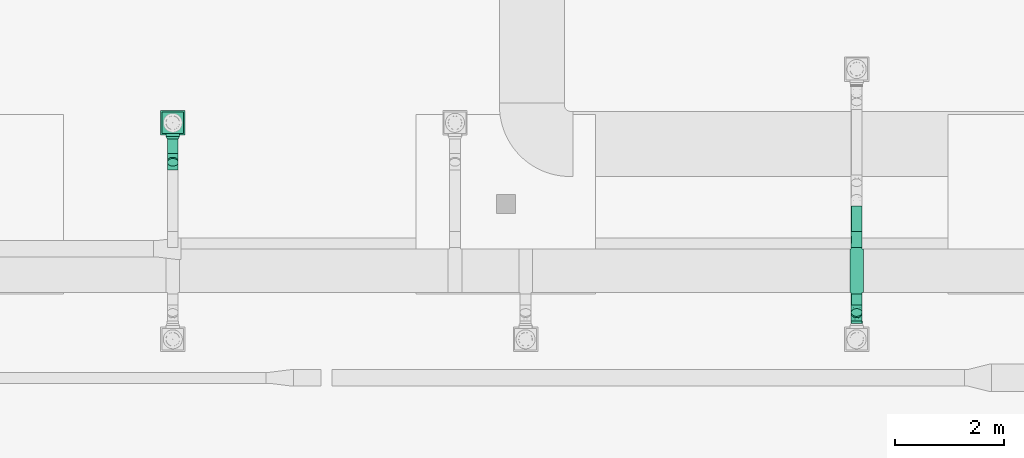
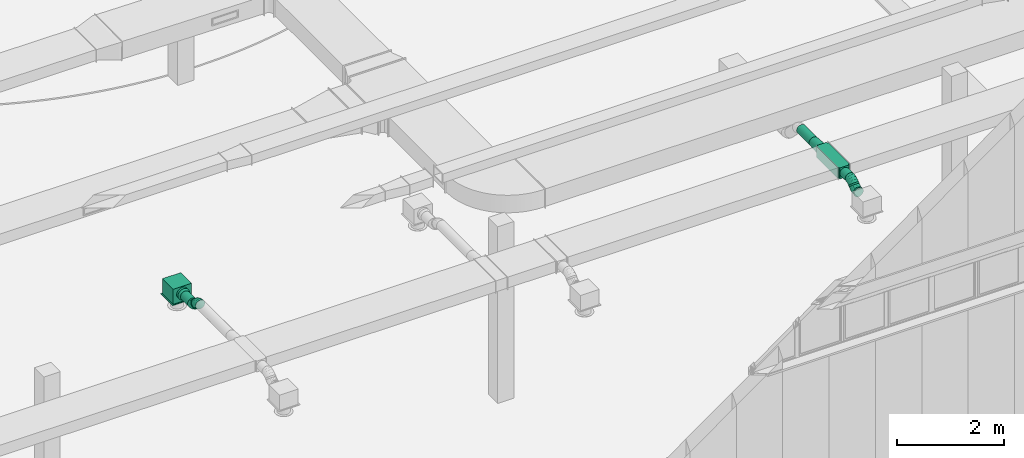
# One storey, part 263 of 302: 7 flow fittings, 6 flow segments, 1 flow terminal.
"""IFC2X3 building model written with IfcOpenShell, lengths in metres."""

from ifc_helpers import new_model, entity, si_unit, converted_unit, derived_unit, direction, frame, frame_2d, origin, origin_2d_with_axis, place, context, subcontext, project, spatial, polyline, rectangle, circle, outline, extrude, faceted_brep, source, transform, mapped, material, material_list, type_object, type_shapes, element, save


model = new_model("IFC2X3")

# Units and contexts
model_context = context("Model", 3, precision=1e-05, world=origin(), true_north=direction((6.12303176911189e-17, 1.0)))
body_context = subcontext(model_context, "Body", "Model", "MODEL_VIEW")
ifc_project = project(units=[si_unit("LENGTHUNIT", "METRE"), si_unit("AREAUNIT", "SQUARE_METRE"), si_unit("VOLUMEUNIT", "CUBIC_METRE"), converted_unit("PLANEANGLEUNIT", "DEGREE", entity("IfcRatioMeasure", 0.0174532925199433), si_unit("PLANEANGLEUNIT", "RADIAN"), dimensions=[0, 0, 0, 0, 0, 0, 0]), si_unit("MASSUNIT", "GRAM", prefix="KILO"), derived_unit("MASSDENSITYUNIT", [(si_unit("MASSUNIT", "GRAM", prefix="KILO"), 1), (si_unit("LENGTHUNIT", "METRE"), -3)]), derived_unit("MOMENTOFINERTIAUNIT", [(si_unit("LENGTHUNIT", "METRE"), 4)]), si_unit("TIMEUNIT", "SECOND"), si_unit("FREQUENCYUNIT", "HERTZ"), si_unit("THERMODYNAMICTEMPERATUREUNIT", "DEGREE_CELSIUS"), derived_unit("THERMALTRANSMITTANCEUNIT", [(si_unit("MASSUNIT", "GRAM", prefix="KILO"), 1), (si_unit("THERMODYNAMICTEMPERATUREUNIT", "KELVIN"), -1), (si_unit("TIMEUNIT", "SECOND"), -3)]), derived_unit("VOLUMETRICFLOWRATEUNIT", [(si_unit("LENGTHUNIT", "METRE"), 3), (si_unit("TIMEUNIT", "SECOND"), -1)]), si_unit("ELECTRICCURRENTUNIT", "AMPERE"), si_unit("ELECTRICVOLTAGEUNIT", "VOLT"), si_unit("POWERUNIT", "WATT"), si_unit("FORCEUNIT", "NEWTON", prefix="KILO"), si_unit("ILLUMINANCEUNIT", "LUX"), si_unit("LUMINOUSFLUXUNIT", "LUMEN"), si_unit("LUMINOUSINTENSITYUNIT", "CANDELA"), derived_unit("USERDEFINED", [(si_unit("MASSUNIT", "GRAM", prefix="KILO"), -1), (si_unit("LENGTHUNIT", "METRE"), -2), (si_unit("TIMEUNIT", "SECOND"), 3), (si_unit("LUMINOUSFLUXUNIT", "LUMEN"), 1)]), derived_unit("LINEARVELOCITYUNIT", [(si_unit("LENGTHUNIT", "METRE"), 1), (si_unit("TIMEUNIT", "SECOND"), -1)]), si_unit("PRESSUREUNIT", "PASCAL"), derived_unit("USERDEFINED", [(si_unit("LENGTHUNIT", "METRE"), -2), (si_unit("MASSUNIT", "GRAM", prefix="KILO"), 1), (si_unit("TIMEUNIT", "SECOND"), -2)]), derived_unit("LINEARFORCEUNIT", [(si_unit("MASSUNIT", "GRAM", prefix="KILO"), 1), (si_unit("LENGTHUNIT", "METRE"), 1), (si_unit("TIMEUNIT", "SECOND"), -2), (si_unit("LENGTHUNIT", "METRE"), -1)]), derived_unit("PLANARFORCEUNIT", [(si_unit("MASSUNIT", "GRAM", prefix="KILO"), 1), (si_unit("LENGTHUNIT", "METRE"), 1), (si_unit("TIMEUNIT", "SECOND"), -2), (si_unit("LENGTHUNIT", "METRE"), -2)])], contexts=[model_context])

# Site, building, storey
site_placement = place(None, origin())
site = spatial("IfcSite", under=ifc_project, at=site_placement, Name="Default", CompositionType="ELEMENT")
building_placement = place(site_placement, origin())
building = spatial("IfcBuilding", under=site, at=building_placement, CompositionType="ELEMENT")
storey_placement = place(building_placement, frame((0.0, 0.0, -1.3)))
storey = spatial("IfcBuildingStorey", under=building, at=storey_placement, Name="00_EG", CompositionType="ELEMENT", Elevation=-1.3)

# Flow segments
duct_segment_type = type_object("IfcDuctSegmentType", Name="Rund:STR_Segment_RND_GS_EA", PredefinedType="NOTDEFINED")
flow_segment_1_placement = place(storey_placement, origin())
element("IfcFlowSegment", 1, at=flow_segment_1_placement, inside=storey, type_object=duct_segment_type, Name="Rund:STR_Segment_RND_GS_EA", ObjectType="Rund:STR_Segment_RND_GS_EA", context=body_context, shape_type="SweptSolid", body=[
    extrude(circle(Radius=0.1, at=origin_2d_with_axis()), frame((-240.478749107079, 22.9468155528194, 5.125), z_axis=(0.0, 1.0, 0.0), x_axis=(1.0, 0.0, 0.0)), (0.0, 0.0, 1.0), 0.467157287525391),
])
flow_segment_2_placement = place(storey_placement, origin())
element("IfcFlowSegment", 2, at=flow_segment_2_placement, inside=storey, type_object=duct_segment_type, Name="Rund:STR_Segment_RND_GS_EA", ObjectType="Rund:STR_Segment_RND_GS_EA", context=body_context, shape_type="SweptSolid", body=[
    extrude(circle(Radius=0.1, at=origin_2d_with_axis()), frame((-240.478749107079, 21.4325516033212, 5.04357873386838), z_axis=(0.0, 0.707106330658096, 0.707107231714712), x_axis=(1.0, 0.0, 0.0)), (0.0, 0.0, 1.0), 0.0323041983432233),
])
flow_segment_3_placement = place(storey_placement, origin())
element("IfcFlowSegment", 3, at=flow_segment_3_placement, inside=storey, type_object=duct_segment_type, Name="Rund:STR_Segment_RND_GS_EA", ObjectType="Rund:STR_Segment_RND_GS_EA", context=body_context, shape_type="SweptSolid", body=[
    extrude(circle(Radius=0.1, at=origin_2d_with_axis()), frame((-240.478749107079, 21.2618155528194, 4.985), z_axis=(0.0, 1.0, 0.0), x_axis=(1.0, 0.0, 0.0)), (0.0, 0.0, 1.0), 0.0293146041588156),
])
flow_segment_4_placement = place(storey_placement, origin())
element("IfcFlowSegment", 4, at=flow_segment_4_placement, inside=storey, type_object=duct_segment_type, Name="Rund:STR_Segment_RND_GS_EA", ObjectType="Rund:STR_Segment_RND_GS_EA", context=body_context, shape_type="SweptSolid", body=[
    extrude(circle(Radius=0.1, at=origin_2d_with_axis()), frame((-240.478749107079, 21.5968155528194, 5.12500000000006), z_axis=(0.0, 1.0, 0.0), x_axis=(1.0, 0.0, 0.0)), (0.0, 0.0, 1.0), 0.200000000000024),
])
flow_segment_5_placement = place(storey_placement, origin())
element("IfcFlowSegment", 5, at=flow_segment_5_placement, inside=storey, type_object=duct_segment_type, Name="Rund:STR_Segment_RND_GS_EA", ObjectType="Rund:STR_Segment_RND_GS_EA", context=body_context, shape_type="SweptSolid", body=[
    extrude(circle(Radius=0.1, at=origin_2d_with_axis()), frame((-253.062285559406, 24.3826301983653, 4.985), z_axis=(0.0, 1.0, 0.0), x_axis=(-1.0, 0.0, 0.0)), (0.0, 0.0, 1.0), 0.262914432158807),
])
flow_segment_6_placement = place(storey_placement, origin())
element("IfcFlowSegment", 6, at=flow_segment_6_placement, inside=storey, type_object=duct_segment_type, Name="Rund:STR_Segment_RND_GS_EA", ObjectType="Rund:STR_Segment_RND_GS_EA", context=body_context, shape_type="SweptSolid", body=[
    extrude(circle(Radius=0.1, at=frame_2d((3.46517481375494e-14, -4.59428346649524e-15), x_axis=(1.0, 0.0))), frame((-253.062285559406, 24.218366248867, 5.06642126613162), z_axis=(0.0, 0.707106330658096, -0.707107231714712), x_axis=(-1.0, 0.0, 0.0)), (0.0, 0.0, 1.0), 0.0323041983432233),
])

# Flow fitting
ifc_material = material(Name="<Unnamed>")
duct_fitting_type_1 = type_object("IfcDuctFittingType", Name="STR_RCT_Cross:STR_Cross_RCT_GS_RA", PredefinedType="NOTDEFINED", material=ifc_material)
shared_shape_1 = source(origin(), body_context, "Body", "SweptSolid", [
    extrude(outline(polyline([(-0.424999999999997, 0.0999999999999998), (-0.424999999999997, -0.1), (-0.400000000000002, -0.1), (-0.400000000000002, -0.124999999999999), (0.399999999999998, -0.124999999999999), (0.399999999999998, -0.100000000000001), (0.425000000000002, -0.100000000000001), (0.425000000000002, 0.0999999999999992), (0.399999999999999, 0.0999999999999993), (0.399999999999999, 0.125000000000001), (-0.400000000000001, 0.125000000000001), (-0.400000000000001, 0.0999999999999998), (-0.424999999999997, 0.0999999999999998)])), frame((0.0, 0.0, -0.125000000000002), z_axis=(0.0, 0.0, -1.0), x_axis=(0.0, 1.0, 0.0)), (0.0, 0.0, -1.0), 0.25),
])
type_shapes(duct_fitting_type_1, [shared_shape_1])
flow_fitting_1_placement = place(storey_placement, frame((-240.478749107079, 22.2218155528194, 5.125)))
element("IfcFlowFitting", 7, at=flow_fitting_1_placement, inside=storey, type_object=duct_fitting_type_1, material=ifc_material, Name="STR_RCT_Cross:STR_Cross_RCT_GS_RA", ObjectType="STR_RCT_Cross:STR_Cross_RCT_GS_RA", context=body_context, shape_type="MappedRepresentation", body=[
    mapped(shared_shape_1, transform((0.0, 0.0, 0.0), scale=1.0)),
])

# Flow terminal
ifc_material_list = material_list([ifc_material, ifc_material, ifc_material])
air_terminal_type = type_object("IfcAirTerminalType", Name="Drallauslass Zuluft seitlich:600 quadratisch", PredefinedType="NOTDEFINED", material=ifc_material_list)
shared_shape_2 = source(origin(), body_context, "Body", "SweptSolid", [
    extrude(rectangle(XDim=0.449999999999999, YDim=0.450000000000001, at=origin_2d_with_axis()), frame((0.0, 0.0, 2.692), z_axis=(0.0, 0.0, 1.0), x_axis=(-1.0, 0.0, 0.0)), (0.0, 0.0, 1.0), 0.00800000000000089),
    extrude(circle(Radius=0.125, at=frame_2d((1.22275294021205e-18, 0.0), x_axis=(1.0, 0.0))), frame((-0.25, 0.0, 2.89500000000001), z_axis=(1.0, 0.0, 0.0), x_axis=(0.0, 1.0, 0.0)), (0.0, 0.0, 1.0), 0.0499999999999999),
    extrude(rectangle(XDim=0.399999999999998, YDim=0.4, at=origin_2d_with_axis()), frame((0.0, 0.0, 2.7), z_axis=(0.0, 0.0, 1.0), x_axis=(-1.0, 0.0, 0.0)), (0.0, 0.0, 1.0), 0.345000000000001),
])
type_shapes(air_terminal_type, [shared_shape_2])
flow_terminal_placement = place(storey_placement, frame((-253.062285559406, 24.9455446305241, 2.08999999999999), z_axis=(0.0, 0.0, 1.0), x_axis=(0.0, 1.0, 0.0)))
element("IfcFlowTerminal", 8, at=flow_terminal_placement, inside=storey, type_object=air_terminal_type, material=ifc_material, Name="Drallauslass Zuluft seitlich:600 quadratisch", ObjectType="Drallauslass Zuluft seitlich:600 quadratisch", context=body_context, shape_type="MappedRepresentation", body=[
    mapped(shared_shape_2, transform((0.0, 0.0, 0.0), scale=1.0)),
])

# Flow fittings
duct_fitting_type_2 = type_object("IfcDuctFittingType", Name="STR_OVL_Transition:STR_Transition_OVL_GS_EA", PredefinedType="NOTDEFINED", material=ifc_material)
shared_shape_3 = source(origin(), body_context, "Body", "Brep", [
    faceted_brep([(0.300000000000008, 0.0999999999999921, 0.00158749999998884), (0.300000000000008, 0.0966466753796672, 0.0270585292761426), (0.300000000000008, 0.0868152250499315, 0.050793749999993), (0.300000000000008, 0.0711756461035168, 0.0711756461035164), (0.300000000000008, 0.0507937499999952, 0.0868152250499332), (0.300000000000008, 0.0270585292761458, 0.0966466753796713), (0.300000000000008, 0.00158749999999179, 0.0999999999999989), (0.300000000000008, -0.00158750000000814, 0.0999999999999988), (0.300000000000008, -0.0270585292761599, 0.0966466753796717), (0.300000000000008, -0.0507937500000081, 0.0868152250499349), (0.300000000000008, -0.0711756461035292, 0.07117564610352), (0.300000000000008, -0.0868152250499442, 0.0507937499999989), (0.300000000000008, -0.0966466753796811, 0.0270585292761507), (0.300000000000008, -0.100000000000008, 0.00158749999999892), (0.300000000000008, -0.100000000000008, -0.00158750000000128), (0.300000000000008, -0.0966466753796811, -0.0270585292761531), (0.300000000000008, -0.0868152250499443, -0.0507937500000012), (0.300000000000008, -0.0711756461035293, -0.0711756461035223), (0.300000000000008, -0.0507937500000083, -0.0868152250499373), (0.300000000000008, -0.0270585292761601, -0.0966466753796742), (0.300000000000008, -0.00158750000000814, -0.100000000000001), (0.300000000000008, 0.0015874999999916, -0.100000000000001), (0.300000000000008, 0.0270585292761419, -0.0966466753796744), (0.300000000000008, 0.0507937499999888, -0.0868152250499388), (0.300000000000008, 0.0711756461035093, -0.0711756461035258), (0.300000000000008, 0.0868152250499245, -0.0507937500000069), (0.300000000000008, 0.0966466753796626, -0.0270585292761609), (0.300000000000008, 0.0999999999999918, -0.00158750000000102), (0.0, 0.00158749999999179, -0.125000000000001), (0.0, -0.00158750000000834, -0.125000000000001), (0.0, -0.0270585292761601, -0.121646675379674), (0.0, -0.0507937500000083, -0.111815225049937), (0.0, -0.0711756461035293, -0.0961756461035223), (0.0, -0.0868152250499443, -0.0757937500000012), (0.0, -0.0966466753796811, -0.0520585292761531), (0.0, -0.100000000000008, -0.026587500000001), (0.0, -0.100000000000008, 0.0265874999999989), (0.0, -0.0966466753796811, 0.0520585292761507), (0.0, -0.0868152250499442, 0.0757937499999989), (0.0, -0.0711756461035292, 0.0961756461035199), (0.0, -0.0507937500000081, 0.111815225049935), (0.0, -0.0270585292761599, 0.121646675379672), (0.0, -0.00158750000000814, 0.124999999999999), (0.0, 0.00158749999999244, 0.124999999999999), (0.0, 0.0270585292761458, 0.121646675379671), (0.0, 0.0507937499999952, 0.111815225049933), (0.0, 0.0711756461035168, 0.0961756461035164), (0.0, 0.0868152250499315, 0.0757937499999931), (0.0, 0.0966466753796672, 0.0520585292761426), (0.0, 0.0999999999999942, 0.026587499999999), (0.0, 0.0999999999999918, -0.0265875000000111), (0.0, 0.0966466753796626, -0.052058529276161), (0.0, 0.0868152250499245, -0.0757937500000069), (0.0, 0.0711756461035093, -0.0961756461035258), (0.0, 0.0507937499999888, -0.111815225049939), (0.0, 0.0270585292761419, -0.121646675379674), (0.154247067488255, -0.0203412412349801, 0.110342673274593), (0.145752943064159, -0.0981965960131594, 0.03319516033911), (0.107489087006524, -0.00158750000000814, 0.116042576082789), (0.149999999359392, -0.0614972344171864, 0.0921633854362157), (0.15000000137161, -0.0392483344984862, 0.105008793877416), (0.150000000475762, -0.0796633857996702, 0.0739972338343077), (0.192510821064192, -0.100000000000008, 0.0105449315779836), (0.149999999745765, -0.0925087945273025, 0.0517483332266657), (0.107489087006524, -0.100000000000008, -0.0176300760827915), (0.154247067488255, -0.0981965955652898, -0.0324873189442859), (0.145752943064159, -0.0203412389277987, -0.111050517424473), (0.149999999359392, -0.0796633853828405, -0.0739972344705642), (0.15000000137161, -0.0925087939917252, -0.0517483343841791), (0.150000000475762, -0.0614972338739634, -0.0921633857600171), (0.192511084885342, -0.00158750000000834, -0.10895740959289), (0.149999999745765, -0.0392483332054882, -0.105008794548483), (0.107489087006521, 0.0015874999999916, -0.116042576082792), (0.154247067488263, 0.0203412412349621, -0.110342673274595), (0.145752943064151, 0.0981965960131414, -0.0331951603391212), (0.149999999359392, 0.0614972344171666, -0.0921633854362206), (0.15000000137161, 0.0392483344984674, -0.105008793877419), (0.150000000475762, 0.0796633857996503, -0.0739972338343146), (0.192510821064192, 0.0999999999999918, -0.0105449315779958), (0.149999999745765, 0.0925087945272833, -0.0517483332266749), (0.107489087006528, 0.0999999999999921, 0.0176300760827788), (0.154247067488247, 0.0981965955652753, 0.0324873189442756), (0.145752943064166, 0.0203412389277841, 0.11105051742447), (0.149999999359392, 0.079663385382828, 0.0739972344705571), (0.15000000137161, 0.0925087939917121, 0.0517483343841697), (0.150000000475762, 0.0614972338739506, 0.0921633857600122), (0.192510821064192, 0.00158749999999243, 0.108957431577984), (0.149999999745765, 0.0392483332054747, 0.105008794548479)], [[[0, 1, 2, 3, 4, 5, 6, 7, 8, 9, 10, 11, 12, 13, 14, 15, 16, 17, 18, 19, 20, 21, 22, 23, 24, 25, 26, 27]], [[28, 29, 30, 31, 32, 33, 34, 35, 36, 37, 38, 39, 40, 41, 42, 43, 44, 45, 46, 47, 48, 49, 50, 51, 52, 53, 54, 55]], [[56, 42, 41]], [[36, 57, 37]], [[56, 7, 58, 42]], [[40, 39, 59]], [[41, 60, 56]], [[59, 60, 40]], [[61, 59, 39]], [[41, 40, 60]], [[8, 56, 60]], [[10, 9, 59]], [[9, 60, 59]], [[57, 36, 62, 13]], [[38, 37, 63]], [[63, 61, 38]], [[12, 57, 13]], [[12, 63, 57]], [[9, 8, 60]], [[10, 61, 11]], [[12, 11, 63]], [[63, 11, 61]], [[37, 57, 63]], [[61, 10, 59]], [[61, 39, 38]], [[7, 56, 8]], [[35, 64, 14, 13, 62, 36]], [[65, 35, 34]], [[29, 66, 30]], [[65, 14, 64, 35]], [[33, 32, 67]], [[34, 68, 65]], [[67, 68, 33]], [[69, 67, 32]], [[34, 33, 68]], [[15, 65, 68]], [[17, 16, 67]], [[16, 68, 67]], [[66, 29, 70, 20]], [[31, 30, 71]], [[71, 69, 31]], [[19, 66, 20]], [[19, 71, 66]], [[16, 15, 68]], [[17, 69, 18]], [[19, 18, 71]], [[71, 18, 69]], [[30, 66, 71]], [[69, 17, 67]], [[69, 32, 31]], [[14, 65, 15]], [[28, 72, 21, 20, 70, 29]], [[73, 28, 55]], [[50, 74, 51]], [[73, 21, 72, 28]], [[54, 53, 75]], [[55, 76, 73]], [[75, 76, 54]], [[77, 75, 53]], [[55, 54, 76]], [[22, 73, 76]], [[24, 23, 75]], [[23, 76, 75]], [[74, 50, 78, 27]], [[52, 51, 79]], [[79, 77, 52]], [[26, 74, 27]], [[26, 79, 74]], [[23, 22, 76]], [[24, 77, 25]], [[26, 25, 79]], [[79, 25, 77]], [[51, 74, 79]], [[77, 24, 75]], [[77, 53, 52]], [[21, 73, 22]], [[49, 80, 0, 27, 78, 50]], [[81, 49, 48]], [[43, 82, 44]], [[81, 0, 80, 49]], [[47, 46, 83]], [[48, 84, 81]], [[83, 84, 47]], [[85, 83, 46]], [[48, 47, 84]], [[1, 81, 84]], [[3, 2, 83]], [[2, 84, 83]], [[82, 43, 86, 6]], [[45, 44, 87]], [[87, 85, 45]], [[5, 82, 6]], [[5, 87, 82]], [[2, 1, 84]], [[3, 85, 4]], [[5, 4, 87]], [[87, 4, 85]], [[44, 82, 87]], [[85, 3, 83]], [[85, 46, 45]], [[0, 81, 1]], [[42, 58, 7, 6, 86, 43]]]),
])
type_shapes(duct_fitting_type_2, [shared_shape_3])
flow_fitting_2_placement = place(storey_placement, frame((-240.478749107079, 22.6468155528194, 5.125), z_axis=(0.0, 0.0, 1.0), x_axis=(0.0, 1.0, 0.0)))
element("IfcFlowFitting", 9, at=flow_fitting_2_placement, inside=storey, type_object=duct_fitting_type_2, material=ifc_material, Name="STR_OVL_Transition:STR_Transition_OVL_GS_EA", ObjectType="STR_OVL_Transition:STR_Transition_OVL_GS_EA", context=body_context, shape_type="MappedRepresentation", body=[
    mapped(shared_shape_3, transform((0.0, 0.0, 0.0), scale=1.0)),
])
duct_fitting_type_3 = type_object("IfcDuctFittingType", Name="STR_RND_Transition:STR_Transition_RND_GS_EA", PredefinedType="NOTDEFINED", material=ifc_material)
shared_shape_4 = source(origin(), body_context, "Body", "Brep", [
    faceted_brep([(0.0500000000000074, -0.0587785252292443, -0.0809016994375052), (0.0500000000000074, -0.0309016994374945, -0.0951056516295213), (0.0500000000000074, 0.0, -0.10000000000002), (0.0500000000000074, 0.0309016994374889, -0.0951056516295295), (0.0500000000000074, 0.058778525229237, -0.0809016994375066), (0.0500000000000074, 0.0809016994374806, -0.0587785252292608), (0.0500000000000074, 0.0951056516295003, -0.0309016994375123), (0.0500000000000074, 0.0999999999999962, 0.0), (0.0500000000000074, 0.0951056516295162, 0.0309016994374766), (0.0500000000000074, 0.0809016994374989, 0.0587785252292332), (0.0500000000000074, 0.0587785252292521, 0.0809016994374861), (0.0500000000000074, 0.0309016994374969, 0.0951056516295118), (0.0500000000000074, 0.0, 0.0999999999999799), (0.0500000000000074, -0.0309016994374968, 0.0951056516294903), (0.0500000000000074, -0.058778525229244, 0.0809016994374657), (0.0500000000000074, -0.0809016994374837, 0.0587785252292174), (0.0500000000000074, -0.0951056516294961, 0.0309016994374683), (0.0500000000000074, -0.100000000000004, 0.0), (0.0500000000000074, -0.0951056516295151, -0.030901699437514), (0.0500000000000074, -0.0809016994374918, -0.0587785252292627), (0.0, -0.124999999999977, 0.0), (0.0, -0.118882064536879, 0.038627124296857), (0.0, -0.101127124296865, 0.073473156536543), (0.0, -0.0734731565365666, 0.101127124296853), (0.0, -0.0386271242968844, 0.118882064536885), (0.0, 0.0, 0.125000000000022), (0.0, 0.0386271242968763, 0.11888206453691), (0.0, 0.0734731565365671, 0.101127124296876), (0.0, 0.101127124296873, 0.0734731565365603), (0.0, 0.118882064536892, 0.038627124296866), (0.0, 0.124999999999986, 0.0), (0.0, 0.118882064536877, -0.0386271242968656), (0.0, 0.101127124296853, -0.0734731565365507), (0.0, 0.0734731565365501, -0.101127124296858), (0.0, 0.0386271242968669, -0.118882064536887), (0.0, 0.0, -0.124999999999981), (0.0, -0.0386271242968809, -0.118882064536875), (0.0, -0.0734731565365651, -0.101127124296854), (0.0, -0.101127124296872, -0.0734731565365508), (0.0, -0.118882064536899, -0.0386271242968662)], [[[0, 1, 2, 3, 4, 5, 6, 7, 8, 9, 10, 11, 12, 13, 14, 15, 16, 17, 18, 19]], [[20, 21, 22, 23, 24, 25, 26, 27, 28, 29, 30, 31, 32, 33, 34, 35, 36, 37, 38, 39]], [[26, 25, 12, 11]], [[27, 26, 11, 10]], [[10, 9, 28, 27]], [[8, 7, 30, 29]], [[9, 8, 29, 28]], [[21, 20, 17, 16]], [[22, 21, 16, 15]], [[15, 14, 23, 22]], [[13, 12, 25, 24]], [[14, 13, 24, 23]], [[36, 35, 2, 1]], [[37, 36, 1, 0]], [[0, 19, 38, 37]], [[18, 17, 20, 39]], [[19, 18, 39, 38]], [[31, 30, 7, 6]], [[32, 31, 6, 5]], [[5, 4, 33, 32]], [[3, 2, 35, 34]], [[4, 3, 34, 33]]]),
])
type_shapes(duct_fitting_type_3, [shared_shape_4])
flow_fitting_3_placement = place(storey_placement, frame((-253.062285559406, 24.6955446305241, 4.985), z_axis=(0.0, 0.0, 1.0), x_axis=(0.0, -1.0, 0.0)))
element("IfcFlowFitting", 10, at=flow_fitting_3_placement, inside=storey, type_object=duct_fitting_type_3, material=ifc_material, Name="STR_RND_Transition:STR_Transition_RND_GS_EA", ObjectType="STR_RND_Transition:STR_Transition_RND_GS_EA", context=body_context, shape_type="MappedRepresentation", body=[
    mapped(shared_shape_4, transform((0.0, 0.0, 0.0), scale=1.0)),
])
duct_fitting_type_4 = type_object("IfcDuctFittingType", Name="STR_RND_Elbow:STR_Elbow_RND_GS_EA", PredefinedType="NOTDEFINED", material=ifc_material)
shared_shape_5 = source(origin(), body_context, "Body", "Brep", [
    faceted_brep([(-0.0438246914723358, 0.00384295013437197, 0.0999999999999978), (-0.0498533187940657, 0.0341508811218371, 0.0951056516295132), (-0.0828427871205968, 0.0309016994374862, 0.0951056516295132), (-0.0828427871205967, 0.0, 0.0999999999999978), (-0.0552918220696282, 0.061492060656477, 0.0809016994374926), (-0.0828427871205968, 0.0587785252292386, 0.0809016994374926), (-0.0596078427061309, 0.0831901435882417, 0.0587785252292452), (-0.0828427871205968, 0.0809016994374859, 0.0587785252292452), (-0.0623788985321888, 0.097121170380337, 0.0309016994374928), (-0.0828427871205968, 0.0951056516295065, 0.0309016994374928), (-0.0633337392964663, 0.101921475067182, 0.0), (-0.0828427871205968, 0.0999999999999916, 0.0), (-0.0623788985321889, 0.0971211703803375, -0.030901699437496), (-0.0828427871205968, 0.095105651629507, -0.030901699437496), (-0.059607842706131, 0.0831901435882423, -0.0587785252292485), (-0.0828427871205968, 0.0809016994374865, -0.0587785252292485), (-0.0552918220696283, 0.0614920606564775, -0.0809016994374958), (-0.0828427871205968, 0.0587785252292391, -0.0809016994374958), (-0.0498533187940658, 0.0341508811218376, -0.0951056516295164), (-0.0828427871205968, 0.0309016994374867, -0.0951056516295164), (-0.043824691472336, 0.00384295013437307, -0.100000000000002), (-0.0828427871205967, 0.0, -0.100000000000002), (-0.037796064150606, -0.0264649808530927, -0.0951056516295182), (-0.0828427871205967, -0.0309016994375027, -0.0951056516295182), (-0.0323575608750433, -0.0538061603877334, -0.0809016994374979), (-0.0828427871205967, -0.0587785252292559, -0.0809016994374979), (-0.0280415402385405, -0.075504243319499, -0.0587785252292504), (-0.0828427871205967, -0.080901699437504, -0.0587785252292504), (-0.0252704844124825, -0.0894352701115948, -0.0309016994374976), (-0.0828427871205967, -0.0951056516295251, -0.0309016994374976), (-0.0243156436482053, -0.0942355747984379, 0.0), (-0.0828427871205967, -0.100000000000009, 0.0), (-0.0252704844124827, -0.0894352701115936, 0.0309016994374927), (-0.0828427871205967, -0.0951056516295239, 0.0309016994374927), (-0.0280415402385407, -0.0755042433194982, 0.0587785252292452), (-0.0828427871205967, -0.0809016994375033, 0.0587785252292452), (-0.0323575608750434, -0.0538061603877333, 0.0809016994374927), (-0.0828427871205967, -0.0587785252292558, 0.0809016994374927), (-0.0377960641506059, -0.0264649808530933, 0.0951056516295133), (-0.0828427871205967, -0.0309016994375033, 0.0951056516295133), (-0.00630604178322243, 0.0152241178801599, 0.0999999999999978), (-0.0181316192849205, 0.0437735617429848, 0.0951056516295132), (-0.028799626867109, 0.0695283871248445, 0.0809016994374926), (-0.037265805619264, 0.0899675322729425, 0.0587785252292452), (-0.0427014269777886, 0.103090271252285, 0.0309016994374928), (-0.0445744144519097, 0.107612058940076, 0.0), (-0.0427014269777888, 0.103090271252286, -0.030901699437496), (-0.0372658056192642, 0.089967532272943, -0.0587785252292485), (-0.0287996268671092, 0.069528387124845, -0.0809016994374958), (-0.0181316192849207, 0.0437735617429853, -0.0951056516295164), (-0.00630604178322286, 0.015224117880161, -0.100000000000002), (0.00551953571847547, -0.0133253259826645, -0.0951056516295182), (0.0161875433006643, -0.039080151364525, -0.0809016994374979), (0.0246537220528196, -0.0595192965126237, -0.0587785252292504), (0.0300893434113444, -0.0726420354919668, -0.0309016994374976), (0.0319623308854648, -0.077163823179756, 0.0), (0.0300893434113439, -0.0726420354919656, 0.0309016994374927), (0.0246537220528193, -0.059519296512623, 0.0587785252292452), (0.0161875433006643, -0.0390801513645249, 0.0809016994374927), (0.0055195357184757, -0.0133253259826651, 0.0951056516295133), (0.0282713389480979, 0.0337061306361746, 0.0999999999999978), (0.0111032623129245, 0.0593999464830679, 0.0951056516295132), (-0.00438428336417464, 0.0825786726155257, 0.0809016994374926), (-0.0166752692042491, 0.100973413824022, 0.0587785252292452), (-0.0245665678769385, 0.112783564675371, 0.0309016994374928), (-0.0272857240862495, 0.116853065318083, 0.0), (-0.0245665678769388, 0.112783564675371, -0.030901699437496), (-0.0166752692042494, 0.100973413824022, -0.0587785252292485), (-0.00438428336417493, 0.0825786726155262, -0.0809016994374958), (0.0111032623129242, 0.0593999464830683, -0.0951056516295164), (0.0282713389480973, 0.0337061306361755, -0.100000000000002), (0.0454394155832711, 0.00801231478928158, -0.0951056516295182), (0.0609269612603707, -0.0151664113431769, -0.0809016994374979), (0.0732179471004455, -0.0335611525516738, -0.0587785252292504), (0.0811092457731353, -0.0453713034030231, -0.0309016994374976), (0.0838284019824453, -0.049440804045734, 0.0), (0.0811092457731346, -0.0453713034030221, 0.0309016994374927), (0.0732179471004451, -0.0335611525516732, 0.0587785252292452), (0.0609269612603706, -0.0151664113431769, 0.0809016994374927), (0.0454394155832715, 0.00801231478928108, 0.0951056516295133), (0.0585786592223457, 0.0585787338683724, 0.0999999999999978), (0.0367278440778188, 0.0804295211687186, 0.0951056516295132), (0.0170159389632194, 0.10014140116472, 0.0809016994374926), (0.00137248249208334, 0.115784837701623, 0.0587785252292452), (-0.00867123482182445, 0.125828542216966, 0.0309016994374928), (-0.0121320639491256, 0.129289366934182, 0.0), (-0.00867123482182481, 0.125828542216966, -0.030901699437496), (0.00137248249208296, 0.115784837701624, -0.0587785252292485), (0.0170159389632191, 0.10014140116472, -0.0809016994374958), (0.0367278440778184, 0.080429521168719, -0.0951056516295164), (0.0585786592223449, 0.0585787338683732, -0.100000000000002), (0.0804294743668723, 0.0367279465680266, -0.0951056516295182), (0.100141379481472, 0.0170160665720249, -0.0809016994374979), (0.115784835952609, 0.00137263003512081, -0.0587785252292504), (0.125828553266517, -0.00867107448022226, -0.0309016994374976), (0.129289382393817, -0.0121318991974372, 0.0), (0.125828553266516, -0.00867107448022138, 0.0309016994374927), (0.115784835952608, 0.00137263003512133, 0.0587785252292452), (0.100141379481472, 0.017016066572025, 0.0809016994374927), (0.0804294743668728, 0.0367279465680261, 0.0951056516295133)], [[[0, 1, 2, 3]], [[1, 4, 5, 2]], [[4, 6, 7, 5]], [[6, 8, 9, 7]], [[8, 10, 11, 9]], [[10, 12, 13, 11]], [[12, 14, 15, 13]], [[14, 16, 17, 15]], [[16, 18, 19, 17]], [[18, 20, 21, 19]], [[20, 22, 23, 21]], [[22, 24, 25, 23]], [[24, 26, 27, 25]], [[26, 28, 29, 27]], [[28, 30, 31, 29]], [[30, 32, 33, 31]], [[32, 34, 35, 33]], [[34, 36, 37, 35]], [[36, 38, 39, 37]], [[38, 0, 3, 39]], [[40, 41, 1, 0]], [[41, 42, 4, 1]], [[42, 43, 6, 4]], [[43, 44, 8, 6]], [[44, 45, 10, 8]], [[45, 46, 12, 10]], [[46, 47, 14, 12]], [[47, 48, 16, 14]], [[48, 49, 18, 16]], [[49, 50, 20, 18]], [[50, 51, 22, 20]], [[51, 52, 24, 22]], [[52, 53, 26, 24]], [[53, 54, 28, 26]], [[54, 55, 30, 28]], [[55, 56, 32, 30]], [[56, 57, 34, 32]], [[57, 58, 36, 34]], [[58, 59, 38, 36]], [[59, 40, 0, 38]], [[60, 61, 41, 40]], [[61, 62, 42, 41]], [[62, 63, 43, 42]], [[63, 64, 44, 43]], [[64, 65, 45, 44]], [[65, 66, 46, 45]], [[66, 67, 47, 46]], [[67, 68, 48, 47]], [[68, 69, 49, 48]], [[69, 70, 50, 49]], [[70, 71, 51, 50]], [[71, 72, 52, 51]], [[72, 73, 53, 52]], [[73, 74, 54, 53]], [[74, 75, 55, 54]], [[75, 76, 56, 55]], [[76, 77, 57, 56]], [[77, 78, 58, 57]], [[78, 79, 59, 58]], [[79, 60, 40, 59]], [[80, 81, 61, 60]], [[81, 82, 62, 61]], [[82, 83, 63, 62]], [[83, 84, 64, 63]], [[84, 85, 65, 64]], [[85, 86, 66, 65]], [[86, 87, 67, 66]], [[87, 88, 68, 67]], [[88, 89, 69, 68]], [[89, 90, 70, 69]], [[90, 91, 71, 70]], [[91, 92, 72, 71]], [[92, 93, 73, 72]], [[93, 94, 74, 73]], [[94, 95, 75, 74]], [[95, 96, 76, 75]], [[96, 97, 77, 76]], [[97, 98, 78, 77]], [[98, 99, 79, 78]], [[99, 80, 60, 79]], [[3, 2, 5, 7, 9, 11, 13, 15, 17, 19, 21, 23, 25, 27, 29, 31, 33, 35, 37, 39]], [[99, 98, 97, 96, 95, 94, 93, 92, 91, 90, 89, 88, 87, 86, 85, 84, 83, 82, 81, 80]]]),
])
type_shapes(duct_fitting_type_4, [shared_shape_5])
for number, where, z_axis, x_axis in (
    (11, (-240.478749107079, 21.3739729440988, 4.98500000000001), (1.0, 0.0, 0.0), (0.0, 1.0, 0.0)),
    (12, (-240.478749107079, 21.5139727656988, 5.12500000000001), (-1.0, 0.0, 0.0), (0.0, 0.707106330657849, 0.707107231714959)),
    (13, (-253.062285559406, 24.2997874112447, 4.98500000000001), (-1.0, 0.0, 0.0), (0.0, -1.0, 0.0)),
    (14, (-253.062285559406, 24.1597875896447, 5.12499999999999), (1.0, 0.0, 0.0), (0.0, -0.707106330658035, 0.707107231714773)),
):
    element("IfcFlowFitting", number, at=place(storey_placement, frame(where, z_axis=z_axis, x_axis=x_axis)), inside=storey, type_object=duct_fitting_type_4, material=ifc_material, Name="STR_RND_Elbow:STR_Elbow_RND_GS_EA", ObjectType="STR_RND_Elbow:STR_Elbow_RND_GS_EA", context=body_context, shape_type="MappedRepresentation", body=[
        mapped(shared_shape_5, transform((0.0, 0.0, 0.0), scale=1.0)),
    ])

save(model, "model.ifc")
